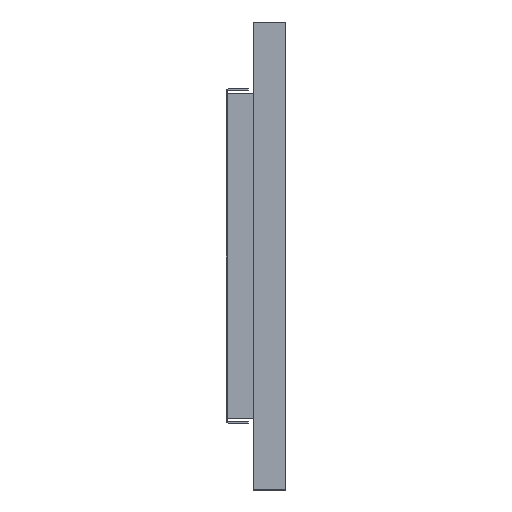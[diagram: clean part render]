
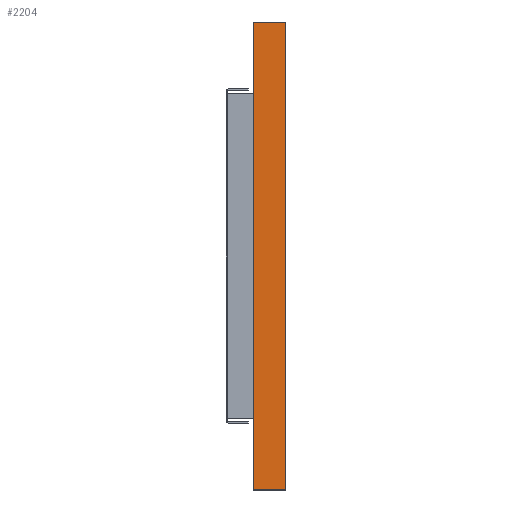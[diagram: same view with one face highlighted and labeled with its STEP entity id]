
A CAD part, left-side view. The second image highlights one B-rep face of the part: STEP entity #2204.
In plain terms, the highlighted planar face has unit normal (-1, 0, 0).
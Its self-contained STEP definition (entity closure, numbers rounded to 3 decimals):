
#6 = EDGE_LOOP ( 'NONE', ( #1354, #1400, #662, #3393 ) ) ;
#297 = CARTESIAN_POINT ( 'NONE',  ( -258.592, -7.233, 36. ) ) ;
#302 = VERTEX_POINT ( 'NONE', #1088 ) ;
#367 = VERTEX_POINT ( 'NONE', #441 ) ;
#391 = CARTESIAN_POINT ( 'NONE',  ( -258.592, -7.233, -36. ) ) ;
#441 = CARTESIAN_POINT ( 'NONE',  ( -258.592, -12.233, -36. ) ) ;
#662 = ORIENTED_EDGE ( 'NONE', *, *, #2822, .F. ) ;
#775 = VECTOR ( 'NONE', #3226, 1000. ) ;
#875 = LINE ( 'NONE', #2124, #1121 ) ;
#1088 = CARTESIAN_POINT ( 'NONE',  ( -258.592, -7.233, 36. ) ) ;
#1103 = DIRECTION ( 'NONE',  ( 1., 0., 0. ) ) ;
#1121 = VECTOR ( 'NONE', #2514, 1000. ) ;
#1354 = ORIENTED_EDGE ( 'NONE', *, *, #2702, .T. ) ;
#1400 = ORIENTED_EDGE ( 'NONE', *, *, #2913, .F. ) ;
#1412 = FACE_OUTER_BOUND ( 'NONE', #6, .T. ) ;
#1740 = VECTOR ( 'NONE', #2949, 1000. ) ;
#1785 = LINE ( 'NONE', #2170, #2016 ) ;
#1887 = CARTESIAN_POINT ( 'NONE',  ( -258.592, -12.233, 36. ) ) ;
#2016 = VECTOR ( 'NONE', #2469, 1000. ) ;
#2071 = CARTESIAN_POINT ( 'NONE',  ( -258.592, -7.233, -36. ) ) ;
#2124 = CARTESIAN_POINT ( 'NONE',  ( -258.592, -7.233, -36. ) ) ;
#2170 = CARTESIAN_POINT ( 'NONE',  ( -258.592, -12.233, -36. ) ) ;
#2204 = ADVANCED_FACE ( 'NONE', ( #1412 ), #4059, .F. ) ;
#2469 = DIRECTION ( 'NONE',  ( 0., 0., 1. ) ) ;
#2514 = DIRECTION ( 'NONE',  ( 0., -1., 0. ) ) ;
#2548 = AXIS2_PLACEMENT_3D ( 'NONE', #391, #1103, #3067 ) ;
#2560 = LINE ( 'NONE', #297, #1740 ) ;
#2601 = LINE ( 'NONE', #2972, #775 ) ;
#2630 = VERTEX_POINT ( 'NONE', #2071 ) ;
#2702 = EDGE_CURVE ( 'NONE', #367, #3418, #1785, .T. ) ;
#2772 = EDGE_CURVE ( 'NONE', #2630, #367, #875, .T. ) ;
#2822 = EDGE_CURVE ( 'NONE', #2630, #302, #2601, .T. ) ;
#2913 = EDGE_CURVE ( 'NONE', #302, #3418, #2560, .T. ) ;
#2949 = DIRECTION ( 'NONE',  ( 0., -1., 0. ) ) ;
#2972 = CARTESIAN_POINT ( 'NONE',  ( -258.592, -7.233, -36. ) ) ;
#3067 = DIRECTION ( 'NONE',  ( 0., 0., -1. ) ) ;
#3226 = DIRECTION ( 'NONE',  ( 0., 0., 1. ) ) ;
#3393 = ORIENTED_EDGE ( 'NONE', *, *, #2772, .T. ) ;
#3418 = VERTEX_POINT ( 'NONE', #1887 ) ;
#4059 = PLANE ( 'NONE',  #2548 ) ;
